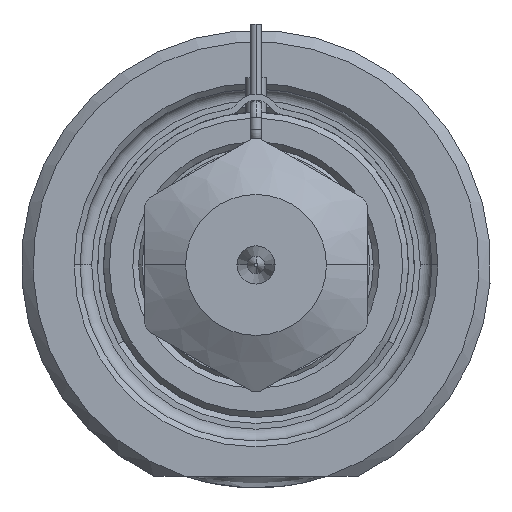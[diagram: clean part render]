
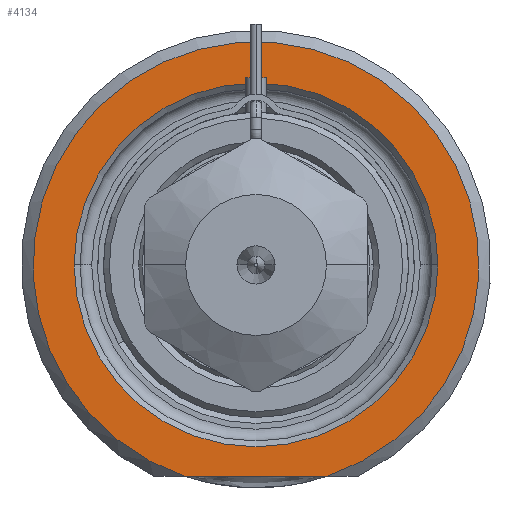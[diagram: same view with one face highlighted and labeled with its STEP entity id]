
A CAD part, front view. The second image highlights one B-rep face of the part: STEP entity #4134.
In plain terms, the highlighted planar face has unit normal (0, -1, 0).
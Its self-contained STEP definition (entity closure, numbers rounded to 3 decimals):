
#1=DIRECTION('',(1.,0.,0.));
#2=VECTOR('',#1,12.166);
#3=CARTESIAN_POINT('',(-6.083,0.,-18.));
#4=LINE('',#3,#2);
#5=CARTESIAN_POINT('',(0.,0.,0.));
#6=DIRECTION('',(0.,1.,0.));
#7=DIRECTION('',(-1.,0.,0.));
#8=AXIS2_PLACEMENT_3D('',#5,#6,#7);
#10=CARTESIAN_POINT('',(0.,0.,0.));
#11=DIRECTION('',(0.,1.,0.));
#12=DIRECTION('',(1.,0.,0.));
#13=AXIS2_PLACEMENT_3D('',#10,#11,#12);
#264=CARTESIAN_POINT('',(0.,0.,0.));
#265=DIRECTION('',(0.,-1.,0.));
#266=DIRECTION('',(0.32,0.,-0.947));
#267=AXIS2_PLACEMENT_3D('',#264,#265,#266);
#3485=CARTESIAN_POINT('',(-15.5,0.,0.));
#3486=CARTESIAN_POINT('',(15.5,0.,0.));
#3487=VERTEX_POINT('',#3485);
#3488=VERTEX_POINT('',#3486);
#3543=CARTESIAN_POINT('',(-6.083,0.,-18.));
#3544=CARTESIAN_POINT('',(6.083,0.,-18.));
#3545=VERTEX_POINT('',#3543);
#3546=VERTEX_POINT('',#3544);
#4117=CARTESIAN_POINT('',(0.,0.,0.));
#4118=DIRECTION('',(0.,-1.,0.));
#4119=DIRECTION('',(1.,0.,0.));
#4120=AXIS2_PLACEMENT_3D('',#4117,#4118,#4119);
#4121=PLANE('',#4120);
#4123=ORIENTED_EDGE('',*,*,#4122,.F.);
#4125=ORIENTED_EDGE('',*,*,#4124,.F.);
#4126=EDGE_LOOP('',(#4123,#4125));
#4127=FACE_OUTER_BOUND('',#4126,.F.);
#4129=ORIENTED_EDGE('',*,*,#4128,.F.);
#4131=ORIENTED_EDGE('',*,*,#4130,.F.);
#4132=EDGE_LOOP('',(#4129,#4131));
#4133=FACE_BOUND('',#4132,.F.);
#4134=ADVANCED_FACE('',(#4127,#4133),#4121,.T.);
#9=CIRCLE('',#8,15.5);
#14=CIRCLE('',#13,15.5);
#268=CIRCLE('',#267,19.);
#4122=EDGE_CURVE('',#3545,#3546,#4,.T.);
#4124=EDGE_CURVE('',#3546,#3545,#268,.T.);
#4128=EDGE_CURVE('',#3487,#3488,#9,.T.);
#4130=EDGE_CURVE('',#3488,#3487,#14,.T.);
